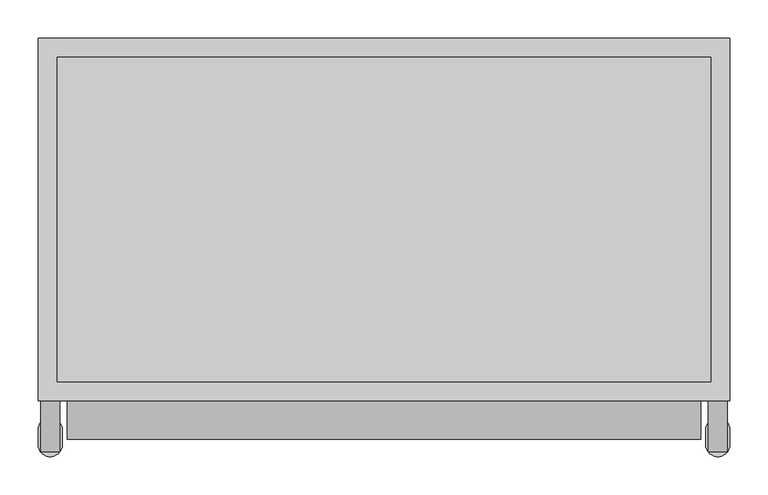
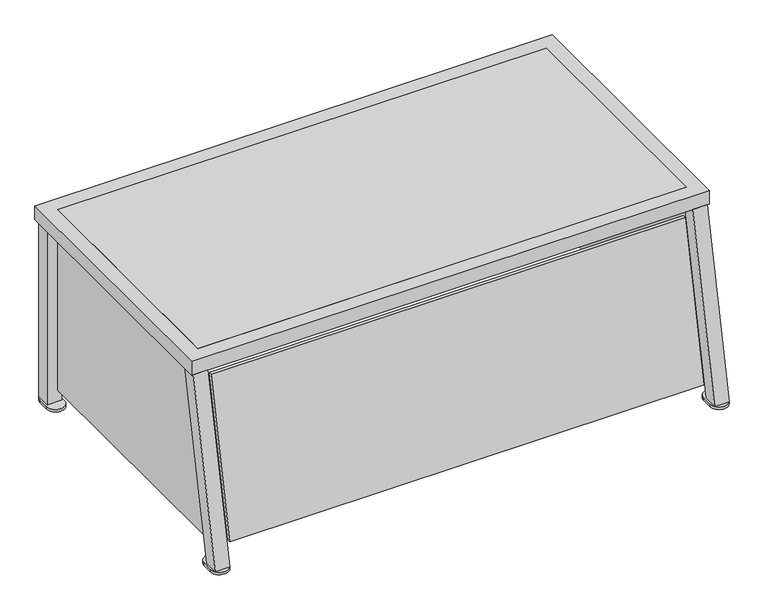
"""IFC4 building model written with IfcOpenShell, lengths in millimetres: proxy geometry, QF_AtlasMetal_PRGT_cat : QF_AtlasMetal_PRGT_cat."""

from ifc_helpers import new_model, si_unit, point, frame, frame_2d, origin, origin_with_axes, place, context, project, spatial, polyline, circle_curve, trimmed, segment, composite_curve, outline, extrude, source, transform, mapped, element, save


def specialty_equipment_023d3a16(model_context):
    return source(origin(), model_context, "Body", "SweptSolid", [
        extrude(outline(polyline([(487.2805745, -503.2375), (-369.9694255, -503.2375), (-369.9694255, -77.7875), (487.2805745, -77.7875), (487.2805745, -503.2375)])), frame((0.0, 0.0, 330.2), z_axis=(0.0, 0.0, 1.0), x_axis=(1.0, 0.0, 0.0)), (0.0, 0.0, 1.0), 25.4),
        extrude(outline(polyline([(-502.7098969, 330.2), (-569.3848969, 4.7625), (-595.3125, 4.7625), (-528.6375, 330.2), (-502.7098969, 330.2)])), frame((484.1055745, 0.0, 0.0), z_axis=(1.0, 0.0, 0.0), x_axis=(0.0, 1.0, 0.0)), (0.0, 0.0, 1.0), 25.4),
        extrude(outline(polyline([(-528.6375, 330.2), (-502.7098969, 330.2), (-569.3848969, 4.7625), (-595.3125, 4.7625), (-528.6375, 330.2)])), frame((-392.1944255, 0.0, 0.0), z_axis=(1.0, 0.0, 0.0), x_axis=(0.0, 1.0, 0.0)), (0.0, 0.0, 1.0), 25.4),
        extrude(outline(polyline([(512.6805745, -52.3875), (512.6805745, -528.6375), (-395.3694255, -528.6375), (-395.3694255, -52.3875), (512.6805745, -52.3875)]), holes=[polyline([(-369.9694255, -77.7875), (-369.9694255, -503.2375), (487.2805745, -503.2375), (487.2805745, -77.7875), (-369.9694255, -77.7875)])]), frame((0.0, 0.0, 330.2), z_axis=(0.0, 0.0, 1.0), x_axis=(1.0, 0.0, 0.0)), (0.0, 0.0, 1.0), 25.4),
        extrude(outline(polyline([(484.1055745, -84.1375), (484.1055745, -58.7375), (509.5055745, -58.7375), (509.5055745, -84.1375), (484.1055745, -84.1375)])), frame((0.0, 0.0, 4.7625), z_axis=(0.0, 0.0, 1.0), x_axis=(1.0, 0.0, 0.0)), (0.0, 0.0, 1.0), 325.4375),
        extrude(outline(polyline([(-366.7944255, -84.1375), (-392.1944255, -84.1375), (-392.1944255, -58.7375), (-366.7944255, -58.7375), (-366.7944255, -84.1375)])), frame((0.0, 0.0, 4.7625), z_axis=(0.0, 0.0, 1.0), x_axis=(1.0, 0.0, 0.0)), (0.0, 0.0, 1.0), 325.4375),
        extrude(outline(polyline([(-522.1670879, 314.325), (-515.6851871, 314.325), (-572.2776261, 38.1), (-578.7595269, 38.1), (-522.1670879, 314.325)])), frame((-357.2694255, 0.0, 0.0), z_axis=(1.0, 0.0, 0.0), x_axis=(0.0, 1.0, 0.0)), (0.0, 0.0, 1.0), 831.85),
        extrude(outline(polyline([(-489.757584, 314.325), (-100.0125, 314.325), (-100.0125, 38.1), (-546.3500231, 38.1), (-489.757584, 314.325)])), frame((493.6305745, 0.0, 0.0), z_axis=(1.0, 0.0, 0.0), x_axis=(0.0, 1.0, 0.0)), (0.0, 0.0, 1.0), 6.35),
        extrude(outline(polyline([(-546.3500231, 38.1), (-489.757584, 314.325), (-100.0125, 314.325), (-100.0125, 38.1), (-546.3500231, 38.1)])), frame((-382.6694255, 0.0, 0.0), z_axis=(1.0, 0.0, 0.0), x_axis=(0.0, 1.0, 0.0)), (0.0, 0.0, 1.0), 6.35),
        extrude(outline(composite_curve([segment(trimmed(circle_curve(frame_2d((-379.4944255, -68.2625)), 15.875), [point((-395.3694255, -68.2625))], [point((-363.6194255, -68.2625))], False, "CARTESIAN"), True, "CONTINUOUS"), segment(polyline([(-363.6194255, -68.2625), (-363.6194255, -87.3125)]), True, "CONTINUOUS"), segment(trimmed(circle_curve(frame_2d((-379.4944255, -87.3125)), 15.875), [point((-363.6194255, -87.3125))], [point((-395.3694255, -87.3125))], False, "CARTESIAN"), True, "CONTINUOUS"), segment(polyline([(-395.3694255, -87.3125), (-395.3694255, -68.2625)]), True, "CONTINUOUS")], self_intersect=False)), origin_with_axes(), (0.0, 0.0, 1.0), 4.7625),
        extrude(outline(composite_curve([segment(trimmed(circle_curve(frame_2d((496.8055745, -68.2625)), 15.875), [point((480.9305745, -68.2625))], [point((512.6805745, -68.2625))], False, "CARTESIAN"), True, "CONTINUOUS"), segment(polyline([(512.6805745, -68.2625), (512.6805745, -87.3125)]), True, "CONTINUOUS"), segment(trimmed(circle_curve(frame_2d((496.8055745, -87.3125)), 15.875), [point((512.6805745, -87.3125))], [point((480.9305745, -87.3125))], False, "CARTESIAN"), True, "CONTINUOUS"), segment(polyline([(480.9305745, -87.3125), (480.9305745, -68.2625)]), True, "CONTINUOUS")], self_intersect=False)), origin_with_axes(), (0.0, 0.0, 1.0), 4.7625),
        extrude(outline(composite_curve([segment(trimmed(circle_curve(frame_2d((-379.4944255, -566.7375)), 15.875), [point((-395.3694255, -566.7375))], [point((-363.6194255, -566.7375))], False, "CARTESIAN"), True, "CONTINUOUS"), segment(polyline([(-363.6194255, -566.7375), (-363.6194255, -585.7875)]), True, "CONTINUOUS"), segment(trimmed(circle_curve(frame_2d((-379.4944255, -585.7875)), 15.875), [point((-363.6194255, -585.7875))], [point((-395.3694255, -585.7875))], False, "CARTESIAN"), True, "CONTINUOUS"), segment(polyline([(-395.3694255, -585.7875), (-395.3694255, -566.7375)]), True, "CONTINUOUS")], self_intersect=False)), origin_with_axes(), (0.0, 0.0, 1.0), 4.7625),
        extrude(outline(composite_curve([segment(trimmed(circle_curve(frame_2d((496.8055745, -566.7375)), 15.875), [point((480.9305745, -566.7375))], [point((512.6805745, -566.7375))], False, "CARTESIAN"), True, "CONTINUOUS"), segment(polyline([(512.6805745, -566.7375), (512.6805745, -585.7875)]), True, "CONTINUOUS"), segment(trimmed(circle_curve(frame_2d((496.8055745, -585.7875)), 15.875), [point((512.6805745, -585.7875))], [point((480.9305745, -585.7875))], False, "CARTESIAN"), True, "CONTINUOUS"), segment(polyline([(480.9305745, -585.7875), (480.9305745, -566.7375)]), True, "CONTINUOUS")], self_intersect=False)), origin_with_axes(), (0.0, 0.0, 1.0), 4.7625),
    ])


if __name__ == "__main__":
    model = new_model("IFC4")
    model_context = context("Model", 3, world=origin())
    ifc_project = project(units=[si_unit("LENGTHUNIT", "METRE", prefix="MILLI")], contexts=[model_context])
    site = spatial("IfcSite", under=ifc_project)
    building = spatial("IfcBuilding", under=site)
    placement = place(None, origin())
    specialty_equipment_shape = specialty_equipment_023d3a16(model_context)
    element("IfcBuildingElementProxy", 1, Name="QF_AtlasMetal_PRGT_cat : QF_AtlasMetal_PRGT_cat", ObjectType="QF_AtlasMetal_PRGT_cat : QF_AtlasMetal_PRGT_cat", at=placement, inside=building, context=model_context, shape_type="MappedRepresentation", body=[
        mapped(specialty_equipment_shape, transform((0.0, 0.0, 0.0), x_axis=(1.0, 0.0, 0.0), y_axis=(0.0, 1.0, 0.0), z_axis=(0.0, 0.0, 1.0))),
    ])
    save(model, "model.ifc")
